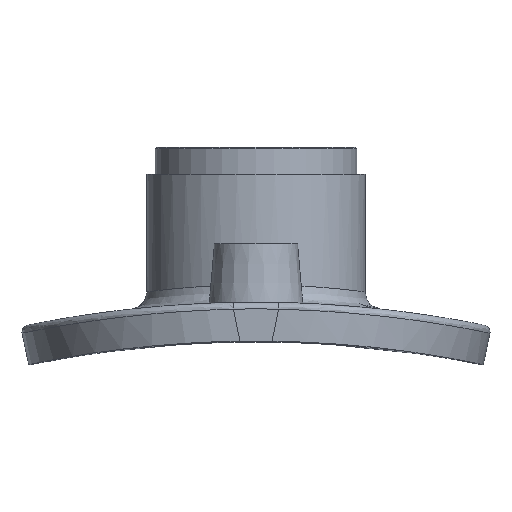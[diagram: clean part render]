
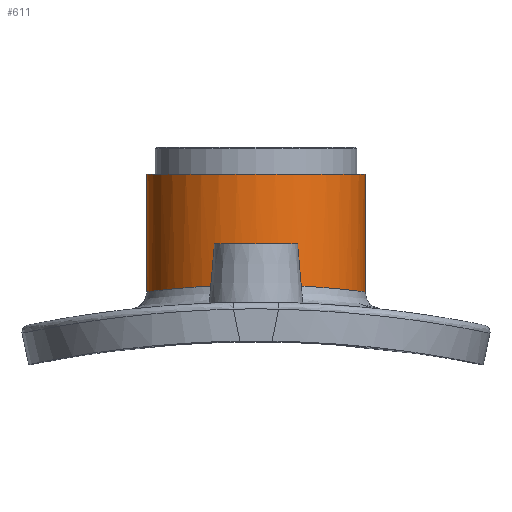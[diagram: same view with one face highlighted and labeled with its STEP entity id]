
A CAD part, top view. The second image highlights one B-rep face of the part: STEP entity #611.
In plain terms, the highlighted cylindrical face has radius 19.689 mm (diameter 39.378 mm), a full revolution.
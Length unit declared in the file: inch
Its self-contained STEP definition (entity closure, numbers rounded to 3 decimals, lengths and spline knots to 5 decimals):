
#25=B_SPLINE_CURVE_WITH_KNOTS('',3,(#1092,#1093,#1094,#1095,#1096,#1097,
#1098),.UNSPECIFIED.,.F.,.F.,(4,1,1,1,4),(-11.87416,-11.02601,
-10.17785,-9.04698,-8.90561),.UNSPECIFIED.);
#26=B_SPLINE_CURVE_WITH_KNOTS('',3,(#1099,#1100,#1101,#1102,#1103,#1104,
#1105,#1106,#1107,#1108,#1109,#1110,#1111,#1112,#1113,#1114),
 .UNSPECIFIED.,.F.,.F.,(4,1,1,1,1,1,1,1,1,1,1,1,1,4),(-8.90561,
-8.76426,-8.48154,-7.35067,-6.78523,
-6.2198,-5.08893,-4.80621,-4.52349,
-3.39262,-2.54446,-1.69631,-0.84815,
0.),.UNSPECIFIED.);
#66=LINE('',#1199,#94);
#67=LINE('',#1201,#95);
#94=VECTOR('',#781,0.77516);
#95=VECTOR('',#782,0.77516);
#120=CYLINDRICAL_SURFACE('',#679,0.77516);
#142=FACE_OUTER_BOUND('',#188,.T.);
#188=EDGE_LOOP('',(#449,#450,#451,#452,#453,#454,#455,#456));
#235=CIRCLE('',#680,0.77516);
#236=CIRCLE('',#681,0.77516);
#272=VERTEX_POINT('',#1069);
#274=VERTEX_POINT('',#1091);
#285=VERTEX_POINT('',#1195);
#286=VERTEX_POINT('',#1196);
#287=VERTEX_POINT('',#1200);
#336=EDGE_CURVE('',#272,#274,#25,.T.);
#337=EDGE_CURVE('',#274,#272,#26,.T.);
#348=EDGE_CURVE('',#285,#286,#235,.T.);
#349=EDGE_CURVE('',#286,#285,#236,.T.);
#350=EDGE_CURVE('',#286,#274,#66,.T.);
#351=EDGE_CURVE('',#287,#274,#67,.T.);
#449=ORIENTED_EDGE('',*,*,#348,.F.);
#450=ORIENTED_EDGE('',*,*,#349,.F.);
#451=ORIENTED_EDGE('',*,*,#350,.T.);
#452=ORIENTED_EDGE('',*,*,#351,.F.);
#453=ORIENTED_EDGE('',*,*,#351,.T.);
#454=ORIENTED_EDGE('',*,*,#336,.F.);
#455=ORIENTED_EDGE('',*,*,#337,.F.);
#456=ORIENTED_EDGE('',*,*,#350,.F.);
#611=ADVANCED_FACE('',(#142),#120,.T.);
#679=AXIS2_PLACEMENT_3D('',#1194,#775,#776);
#680=AXIS2_PLACEMENT_3D('',#1197,#777,#778);
#681=AXIS2_PLACEMENT_3D('',#1198,#779,#780);
#775=DIRECTION('center_axis',(0.,1.,0.));
#776=DIRECTION('ref_axis',(0.,0.,1.));
#777=DIRECTION('center_axis',(0.,1.,0.));
#778=DIRECTION('ref_axis',(1.,0.,0.));
#779=DIRECTION('center_axis',(0.,1.,0.));
#780=DIRECTION('ref_axis',(1.,0.,0.));
#781=DIRECTION('',(0.,-1.,0.));
#782=DIRECTION('',(0.,1.,0.));
#1069=CARTESIAN_POINT('',(-0.77516,8.317,0.));
#1091=CARTESIAN_POINT('',(0.,8.36557,-0.77516));
#1092=CARTESIAN_POINT('Ctrl Pts',(-0.77516,8.317,0.));
#1093=CARTESIAN_POINT('Ctrl Pts',(-0.77516,8.317,-0.11604));
#1094=CARTESIAN_POINT('Ctrl Pts',(-0.72208,8.3239,-0.34783));
#1095=CARTESIAN_POINT('Ctrl Pts',(-0.47532,8.35029,-0.65798));
#1096=CARTESIAN_POINT('Ctrl Pts',(-0.19349,8.36489,-0.76896));
#1097=CARTESIAN_POINT('Ctrl Pts',(-0.01937,8.36561,
-0.77526));
#1098=CARTESIAN_POINT('Ctrl Pts',(-0.00002,8.3656,
-0.77524));
#1099=CARTESIAN_POINT('Ctrl Pts',(-0.00002,8.3656,
-0.77524));
#1100=CARTESIAN_POINT('Ctrl Pts',(0.01933,8.36559,-0.77522));
#1101=CARTESIAN_POINT('Ctrl Pts',(0.07739,8.36529,-0.77298));
#1102=CARTESIAN_POINT('Ctrl Pts',(0.28848,8.3615,-0.74163));
#1103=CARTESIAN_POINT('Ctrl Pts',(0.53295,8.34416,-0.59996));
#1104=CARTESIAN_POINT('Ctrl Pts',(0.70866,8.32526,-0.3415));
#1105=CARTESIAN_POINT('Ctrl Pts',(0.80145,8.31363,-0.04265));
#1106=CARTESIAN_POINT('Ctrl Pts',(0.75957,8.31936,0.23724));
#1107=CARTESIAN_POINT('Ctrl Pts',(0.64276,8.33231,0.43833));
#1108=CARTESIAN_POINT('Ctrl Pts',(0.49821,8.34669,0.62044));
#1109=CARTESIAN_POINT('Ctrl Pts',(0.21849,8.36639,0.78184));
#1110=CARTESIAN_POINT('Ctrl Pts',(-0.17867,8.36628,0.78142));
#1111=CARTESIAN_POINT('Ctrl Pts',(-0.49986,8.34754,0.62677));
#1112=CARTESIAN_POINT('Ctrl Pts',(-0.72217,8.32397,0.34799));
#1113=CARTESIAN_POINT('Ctrl Pts',(-0.77516,8.317,0.11604));
#1114=CARTESIAN_POINT('Ctrl Pts',(-0.77516,8.317,0.));
#1194=CARTESIAN_POINT('Origin',(0.,8.55797,0.));
#1195=CARTESIAN_POINT('',(0.,9.15137,0.77516));
#1196=CARTESIAN_POINT('',(0.,9.15137,-0.77516));
#1197=CARTESIAN_POINT('Origin',(0.,9.15137,0.));
#1198=CARTESIAN_POINT('Origin',(0.,9.15137,0.));
#1199=CARTESIAN_POINT('',(0.,8.55797,-0.77516));
#1200=CARTESIAN_POINT('',(0.,8.31527,-0.77516));
#1201=CARTESIAN_POINT('',(0.,8.55797,-0.77516));
